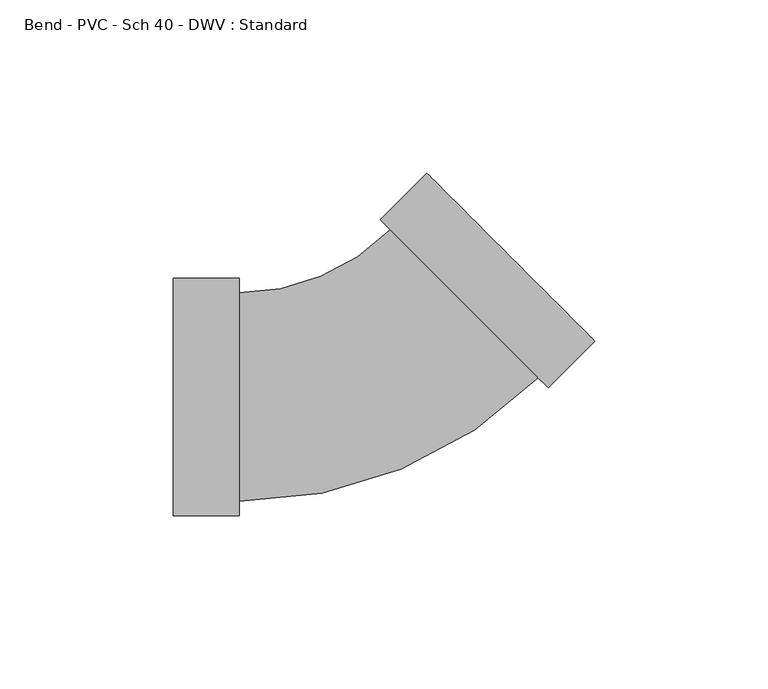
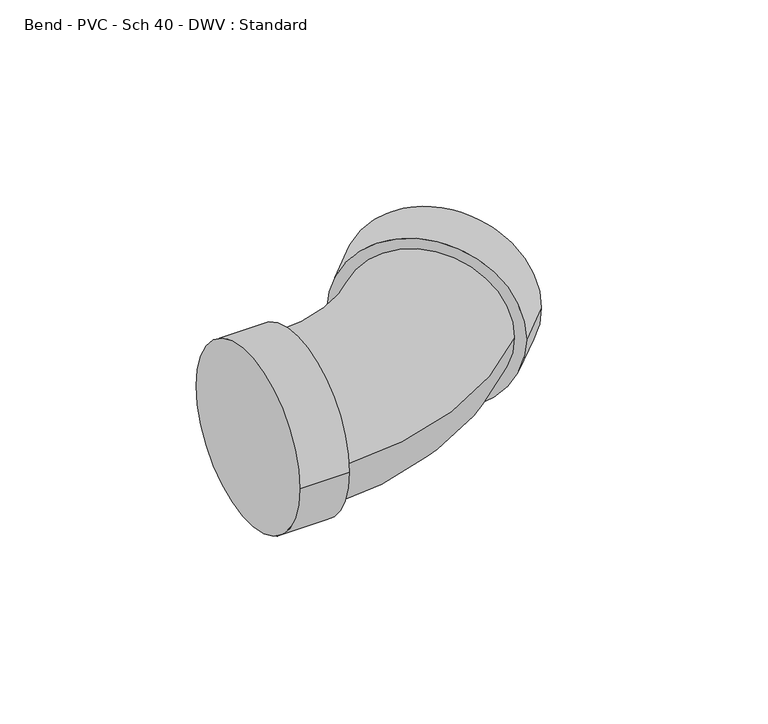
"""IFC4 building model written with IfcOpenShell, lengths in millimetres: pipe fitting geometry, Bend - PVC - Sch 40 - DWV : Standard."""

from ifc_helpers import new_model, si_unit, point, frame, origin, place, context, project, spatial, circle_curve, ellipse_curve, trimmed, source, transform, mapped, element, save
from ifc_brep_helpers import plane_surface, cylinder_surface, revolved_surface, advanced_brep


def bend_pvc_sch_40_dwv_standard_1ab6f397(model_context):
    return source(origin(), model_context, "Body", "AdvancedBrep", [
        advanced_brep(
        [(-57.15, -34.3154, 0.0), (-57.15, 34.3154, 0.0), (-38.1, -34.3154, 0.0), (-38.1, 34.3154, 0.0), (-38.1, -30.1625, 0.0), (-38.1, 30.1625, 0.0), (5.6131797, 48.2688162, 0.0), (48.2689371, 5.6121404, 0.0), (51.2054492, 2.675565, 0.0), (2.6766676, 51.2053916, 0.0), (64.6759784, 16.1458042, 0.0), (16.1471968, 64.6756307, 0.0)],
        [
            (0, 1, circle_curve(frame((-57.15, 0.0, 0.0), z_axis=(-1.0, 0.0, 0.0), x_axis=(0.0, 1.0, 0.0)), 34.3154)),
            (1, 0, circle_curve(frame((-57.15, 0.0, 0.0), z_axis=(-1.0, 0.0, 0.0), x_axis=(0.0, 1.0, 0.0)), 34.3154)),
            (2, 3, circle_curve(frame((-38.1, 0.0, 0.0), z_axis=(1.0, 0.0, 0.0), x_axis=(0.0, 1.0, 0.0)), 34.3154)),
            (3, 2, circle_curve(frame((-38.1, 0.0, 0.0), z_axis=(1.0, 0.0, 0.0), x_axis=(0.0, 1.0, 0.0)), 34.3154)),
            (4, 5, circle_curve(frame((-38.1, 0.0, 0.0), z_axis=(-1.0, 0.0, 0.0), x_axis=(0.0, 1.0, 0.0)), 30.1625)),
            (5, 4, circle_curve(frame((-38.1, 0.0, 0.0), z_axis=(-1.0, 0.0, 0.0), x_axis=(0.0, 1.0, 0.0)), 30.1625)),
            (0, 2),
            (3, 1),
            (6, 5, circle_curve(frame((-38.1, 91.9829372, 0.0), z_axis=(0.0, 0.0, -1.0), x_axis=(0.0, -1.0, 0.0)), 61.8204372)),
            (4, 7, circle_curve(frame((-38.1, 91.9829372, 0.0), z_axis=(0.0, 0.0, 1.0), x_axis=(0.0, -1.0, 0.0)), 122.1454372)),
            (7, 6, circle_curve(frame((26.9410584, 26.9404783, 0.0), z_axis=(-0.7071143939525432, -0.7070991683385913, 0.0), x_axis=(-0.7070991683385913, 0.7071143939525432, 0.0)), 30.1625)),
            (6, 7, circle_curve(frame((26.9410584, 26.9404783, 0.0), z_axis=(-0.7071143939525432, -0.7070991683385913, 0.0), x_axis=(-0.7070991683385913, 0.7071143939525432, 0.0)), 30.1625)),
            (8, 9, circle_curve(frame((26.9410584, 26.9404783, 0.0), z_axis=(-0.7071143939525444, -0.7070991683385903, 0.0), x_axis=(-0.7070991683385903, 0.7071143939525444, 0.0)), 34.3154)),
            (9, 8, circle_curve(frame((26.9410584, 26.9404783, 0.0), z_axis=(-0.7071143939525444, -0.7070991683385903, 0.0), x_axis=(-0.7070991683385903, 0.7071143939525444, 0.0)), 34.3154)),
            (10, 11, circle_curve(frame((40.4115876, 40.4107175, 0.0), z_axis=(0.7071143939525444, 0.7070991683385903, 0.0), x_axis=(-0.7070991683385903, 0.7071143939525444, 0.0)), 34.3154)),
            (11, 10, circle_curve(frame((40.4115876, 40.4107175, 0.0), z_axis=(0.7071143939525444, 0.7070991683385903, 0.0), x_axis=(-0.7070991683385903, 0.7071143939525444, 0.0)), 34.3154)),
            (8, 10),
            (11, 9),
        ],
        [
            plane_surface(frame((-57.15, 0.0, 0.0), z_axis=(-1.0, 0.0, 0.0), x_axis=(0.0, 0.0, 1.0))),
            plane_surface(frame((-38.1, 0.0, 0.0), z_axis=(1.0, 0.0, 0.0), x_axis=(0.0, 0.0, 1.0))),
            cylinder_surface(frame((-57.15, 0.0, 0.0), z_axis=(-1.0, 0.0, 0.0), x_axis=(0.0, 1.0, 0.0)), 34.3154),
            revolved_surface(trimmed(ellipse_curve(frame((-38.1, 0.0, 0.0), z_axis=(-1.0, 0.0, 0.0), x_axis=(0.0, 1.0, 0.0)), 30.1625, 30.1625), [point((-38.1, -30.1625, 0.0))], [point((-38.1, 30.1625, 0.0))], True, "CARTESIAN"), (-38.1, 91.9829372, 0.0), (0.0, 0.0, 1.0)),
            revolved_surface(trimmed(ellipse_curve(frame((-38.1, 0.0, 0.0), z_axis=(-1.0, 0.0, 0.0), x_axis=(0.0, 1.0, 0.0)), 30.1625, 30.1625), [point((-38.1, 30.1625, 0.0))], [point((-38.1, -30.1625, 0.0))], True, "CARTESIAN"), (-38.1, 91.9829372, 0.0), (0.0, 0.0, 1.0)),
            plane_surface(frame((26.9410584, 26.9404783, 0.0), z_axis=(-0.7071143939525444, -0.7070991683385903, 0.0), x_axis=(0.0, 0.0, 1.0))),
            plane_surface(frame((40.4115876, 40.4107175, 0.0), z_axis=(0.7071143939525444, 0.7070991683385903, 0.0), x_axis=(0.0, 0.0, 1.0))),
            cylinder_surface(frame((26.9410584, 26.9404783, 0.0), z_axis=(-0.7071143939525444, -0.7070991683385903, 0.0), x_axis=(-0.7070991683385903, 0.7071143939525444, 0.0)), 34.3154),
        ],
        [
            (0, [[1, 2]]),
            (1, [[3, 4], [5, 6]]),
            (2, [[-1, 7, -4, 8]]),
            (2, [[-2, -8, -3, -7]]),
            (3, [[9, -5, 10, 11]]),
            (4, [[-9, 12, -10, -6]]),
            (5, [[13, 14], [-11, -12]]),
            (6, [[15, 16]]),
            (7, [[-13, 17, -16, 18]]),
            (7, [[-14, -18, -15, -17]]),
        ],
    ),
    ])


if __name__ == "__main__":
    model = new_model("IFC4")
    model_context = context("Model", 3, world=origin())
    ifc_project = project(units=[si_unit("LENGTHUNIT", "METRE", prefix="MILLI")], contexts=[model_context])
    site = spatial("IfcSite", under=ifc_project)
    building = spatial("IfcBuilding", under=site)
    placement = place(None, origin())
    bend_pvc_sch_40_dwv_standard_shape = bend_pvc_sch_40_dwv_standard_1ab6f397(model_context)
    element("IfcPipeFitting", 1, ObjectType="Bend - PVC - Sch 40 - DWV : Standard", at=placement, inside=building, context=model_context, shape_type="MappedRepresentation", body=[
        mapped(bend_pvc_sch_40_dwv_standard_shape, transform((0.0, 0.0, 0.0), x_axis=(1.0, 0.0, 0.0), y_axis=(0.0, 1.0, 0.0), z_axis=(0.0, 0.0, 1.0))),
    ])
    save(model, "model.ifc")
